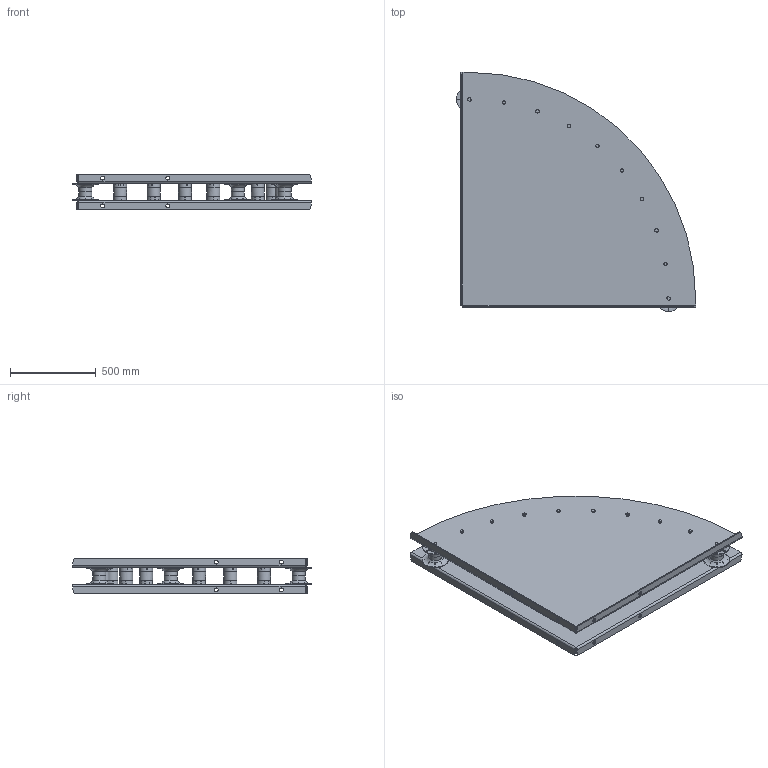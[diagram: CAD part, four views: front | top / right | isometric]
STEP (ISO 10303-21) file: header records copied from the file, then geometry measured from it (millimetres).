
FILE_DESCRIPTION(/* description */ (''),/* implementation_level */ '2;1');
FILE_NAME(/* name */ 'K:\NEMANJA\0700-6\CABLE REEL ACCESSORIES\01006601 CGNB\STP NEMA\73525.stp',/* time_stamp */ '2017-12-01T09:54:46+01:00',/* author */ ('zeldjo01'),/* organization */ ('Hillmar Industries Ltd.'),/* preprocessor_version */ 'ST-DEVELOPER v16.1',/* originating_system */ 'Autodesk Inventor 2016',/* authorisation */ '');
FILE_SCHEMA (('AUTOMOTIVE_DESIGN { 1 0 10303 214 3 1 1 }'));
Products named in the file (1): 73525_Shrinkwrap_1
Bounding box: 1396.2 x 1396.2 x 208 mm (x, y, z)
Volume: 23320667.7 mm3; surface area: 7319642.2 mm2
Topology: 32 solids, 32 shells, 3200 faces, 7951 edges, 4785 vertices
Faces by surface type: plane 1170, bspline 896, cylinder 582, torus 284, cone 268
Full cylindrical faces by diameter (mm): 11.053 x20, 12 x20, 13 x20, 17.2 x20, 19.25 x23, 22 x8, 27.686 x6, 76.2 x27, 80.518 x6, 152.4 x6
Entity records: 122781 total; most frequent: CARTESIAN_POINT 52147, ORIENTED_EDGE 15236, DIRECTION 11908, EDGE_CURVE 7522, AXIS2_PLACEMENT_3D 4945, VERTEX_POINT 4672, EDGE_LOOP 3658, STYLED_ITEM 3232
